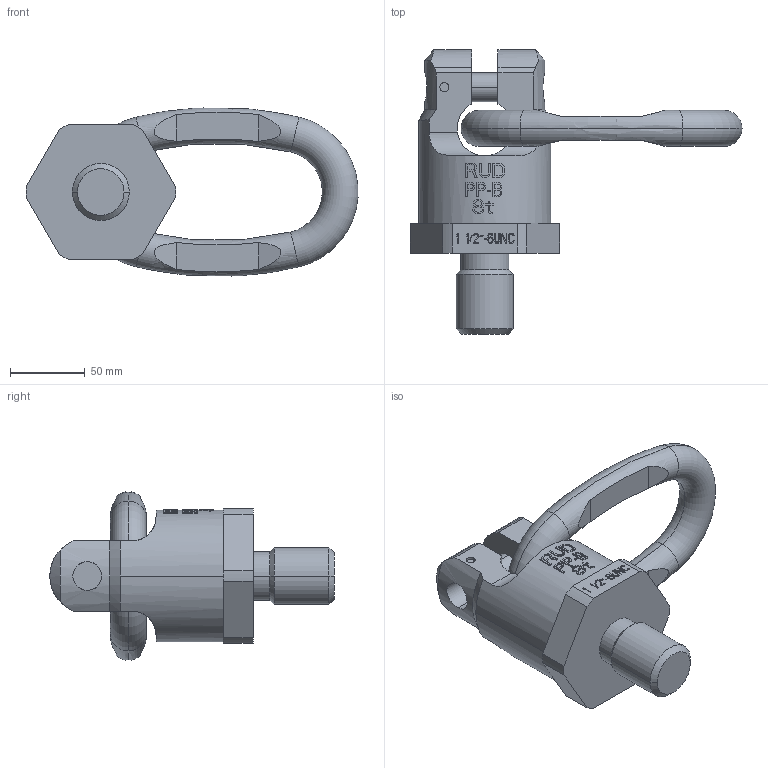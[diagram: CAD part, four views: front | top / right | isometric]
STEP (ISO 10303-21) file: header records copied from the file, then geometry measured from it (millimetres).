
FILE_DESCRIPTION((''),'2;1');
FILE_NAME('001-M31445-P4-90_ASM','2008-10-29T',('Azubitbm'),('RAND'),'PRO/ENGINEER BY PARAMETRIC TECHNOLOGY CORPORATION, 2005030','PRO/ENGINEER BY PARAMETRIC TECHNOLOGY CORPORATION, 2005030','');
FILE_SCHEMA(('CONFIG_CONTROL_DESIGN'));
Length unit declared in the file: millimetre
Products named in the file (4): 001-M31445-002; 001-M31445-007; 001-M31290-005; 001-M31445-P4-90_ASM
Assembly tree (3 placements, depth 2):
  001-M31445-P4-90_ASM
    001-M31445-002
    001-M31445-007
    001-M31290-005
Bounding box: 221.87 x 190 x 112.27 mm (x, y, z)
Volume: 818449.6 mm3; surface area: 102953.1 mm2
Topology: 3 solids, 3 shells, 562 faces, 1544 edges, 1024 vertices
Faces by surface type: plane 498, cylinder 48, cone 8, torus 8
Entity records: 18232 total; most frequent: CARTESIAN_POINT 4387, ORIENTED_EDGE 3088, DIRECTION 2470, EDGE_CURVE 1544, VERTEX_POINT 1024, VECTOR 1016, LINE 1016, AXIS2_PLACEMENT_3D 727
